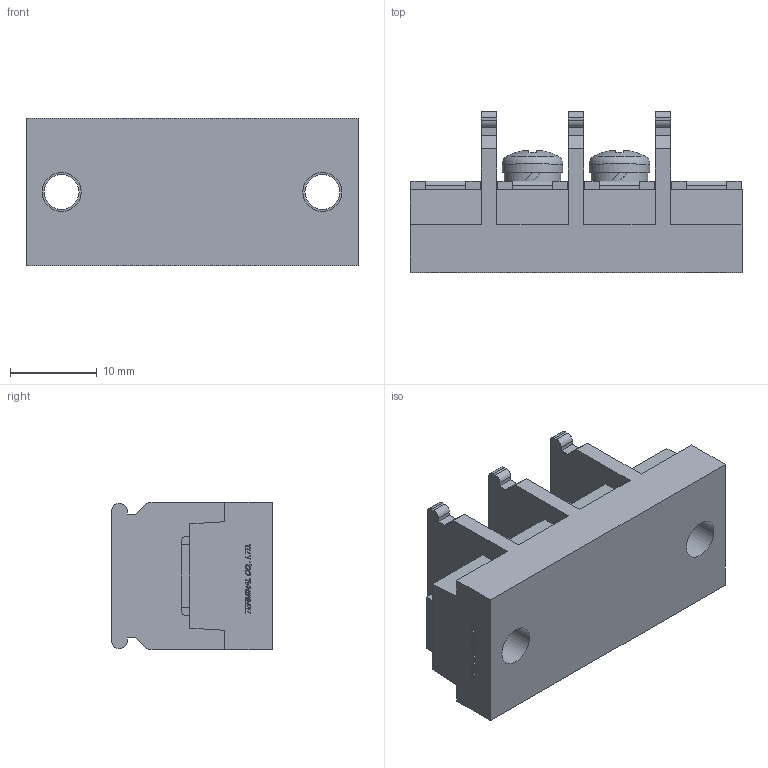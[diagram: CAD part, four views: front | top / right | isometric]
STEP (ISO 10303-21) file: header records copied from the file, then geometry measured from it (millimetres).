
FILE_DESCRIPTION(/* description */ ('Alibre Inc.'),/* implementation_level */ '2;1');
FILE_NAME(/* name */ 'export0',/* time_stamp */ '2015-10-14T19:43:04+09:00',/* author */ (''),/* organization */ (''),/* preprocessor_version */ 'ST-DEVELOPER v14',/* originating_system */ 'Alibre',/* authorisation */ '');
FILE_SCHEMA (('CONFIG_CONTROL_DESIGN'));
Length unit declared in the file: centimetre
Products named in the file (1): ID_1
Bounding box: 38.2 x 18.5 x 17 mm (x, y, z)
Volume: 6469.5 mm3; surface area: 4023.9 mm2
Topology: 1 solids, 17 shells, 568 faces, 1512 edges, 1006 vertices
Faces by surface type: plane 420, bspline 104, cylinder 30, cone 8, torus 4, sphere 2
Full cylindrical faces by diameter (mm): 4 x4, 4.5 x2, 6.5 x2, 7 x2
Entity records: 17110 total; most frequent: CARTESIAN_POINT 4047, ORIENTED_EDGE 2988, DIRECTION 1882, EDGE_CURVE 1494, VECTOR 1152, LINE 1152, VERTEX_POINT 1000, EDGE_LOOP 624
